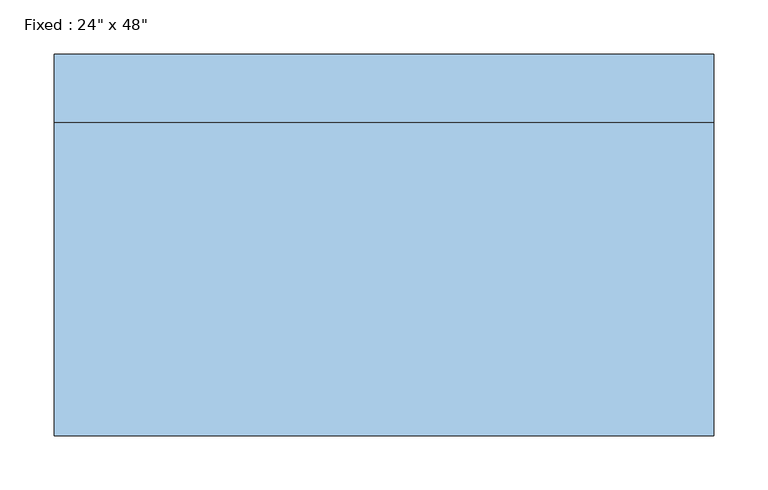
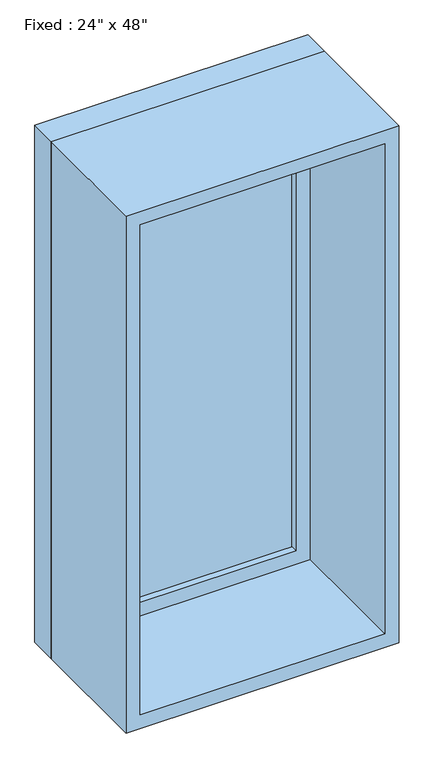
"""IFC4 building model written with IfcOpenShell, lengths in millimetres: window geometry."""

from ifc_helpers import new_model, si_unit, frame, origin, place, context, project, spatial, polyline, outline, extrude, source, transform, mapped, element, save


def window_60baf983(model_context):
    return source(origin(), model_context, "Body", "SweptSolid", [
        extrude(outline(polyline([(203.2, 128.5875), (-279.4, 128.5875), (-279.4, 141.2875), (203.2, 141.2875), (203.2, 128.5875)])), frame((0.0, 0.0, 977.9), z_axis=(0.0, 0.0, 1.0), x_axis=(1.0, 0.0, 0.0)), (0.0, 0.0, 1.0), 1092.2),
        extrude(outline(polyline([(2114.55, -323.85), (933.45, -323.85), (933.45, 247.65), (2114.55, 247.65), (2114.55, -323.85)]), holes=[polyline([(2070.1, -279.4), (2070.1, 203.2), (977.9, 203.2), (977.9, -279.4), (2070.1, -279.4)])]), frame((0.0, 112.7125, 0.0), z_axis=(0.0, 1.0, 0.0), x_axis=(0.0, 0.0, 1.0)), (0.0, 0.0, 1.0), 44.45),
        extrude(outline(polyline([(2133.6, -342.9), (914.4, -342.9), (914.4, 266.7), (2133.6, 266.7), (2133.6, -342.9)]), holes=[polyline([(2101.85, -311.15), (2101.85, 234.95), (946.15, 234.95), (946.15, -311.15), (2101.85, -311.15)])]), frame((0.0, -176.2125, 0.0), z_axis=(0.0, 1.0, 0.0), x_axis=(0.0, 0.0, 1.0)), (0.0, 0.0, 1.0), 288.925),
        extrude(outline(polyline([(2133.6, 266.7), (2133.6, -342.9), (914.4, -342.9), (914.4, 266.7), (2133.6, 266.7)]), holes=[polyline([(2114.55, 247.65), (933.45, 247.65), (933.45, -323.85), (2114.55, -323.85), (2114.55, 247.65)])]), frame((0.0, 112.7125, 0.0), z_axis=(0.0, 1.0, 0.0), x_axis=(0.0, 0.0, 1.0)), (0.0, 0.0, 1.0), 63.5),
    ])


if __name__ == "__main__":
    model = new_model("IFC4")
    model_context = context("Model", 3, world=origin())
    ifc_project = project(units=[si_unit("LENGTHUNIT", "METRE", prefix="MILLI")], contexts=[model_context])
    site = spatial("IfcSite", under=ifc_project)
    building = spatial("IfcBuilding", under=site)
    placement = place(None, origin())
    window_shape = window_60baf983(model_context)
    element("IfcWindow", 1, ObjectType="Fixed : 24\" x 48\"", at=placement, inside=building, context=model_context, shape_type="MappedRepresentation", body=[
        mapped(window_shape, transform((0.0, 0.0, 0.0), x_axis=(1.0, 0.0, 0.0), y_axis=(0.0, 1.0, 0.0), z_axis=(0.0, 0.0, 1.0))),
    ])
    save(model, "model.ifc")
